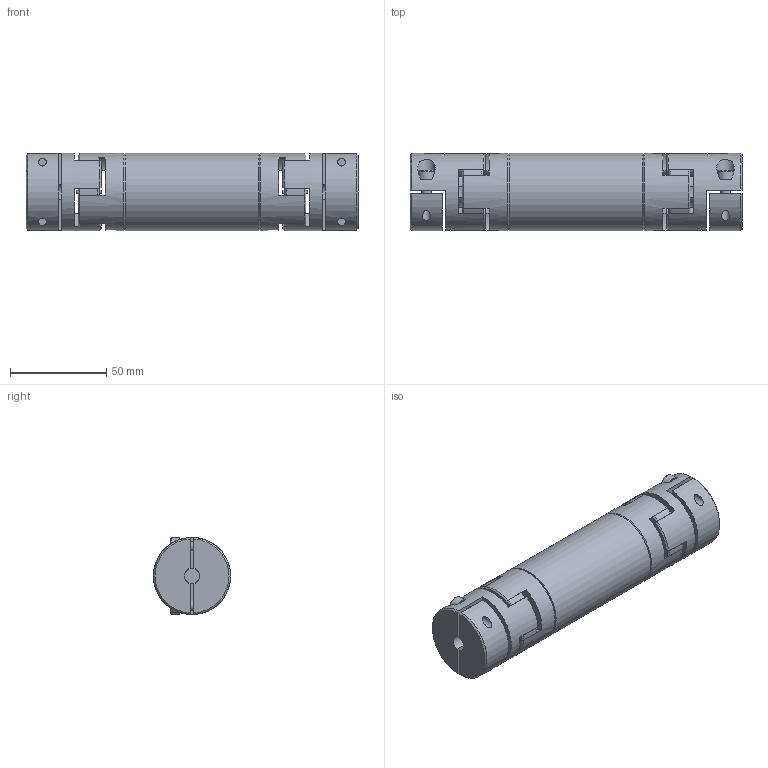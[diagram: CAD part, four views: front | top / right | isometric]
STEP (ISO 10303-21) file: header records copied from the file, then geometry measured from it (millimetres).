
FILE_DESCRIPTION(/* description */ ('Zwischenwellenkupplung AL19'),/* implementation_level */ '2;1');
FILE_NAME(/* name */ 'ALRP19-L135-8-KL-8-KL',/* time_stamp */ '2024-01-05T15:38:04+01:00',/* author */ ('License CC BY-ND 4.0'),/* organization */ ('CADENAS'),/* preprocessor_version */ 'ST-DEVELOPER v20',/* originating_system */ 'Autodesk Inventor 2024',/* authorisation */ ' ');
FILE_SCHEMA (('AUTOMOTIVE_DESIGN { 1 0 10303 214 3 1 1 }'));
Length unit declared in the file: millimetre
Products named in the file (1): Zwischenwellenkupplung AL19
Bounding box: 172.2 x 40 x 40 mm (x, y, z)
Volume: 163312.2 mm3; surface area: 61403.4 mm2
Topology: 13 solids, 13 shells, 332 faces, 780 edges, 502 vertices
Faces by surface type: cylinder 136, plane 102, cone 84, torus 10
Full cylindrical faces by diameter (mm): 1.846 x8, 4.134 x4, 5 x4, 6 x4, 8 x4, 8.5 x4, 17 x4, 30 x3, 30.2 x4, 40 x5
Entity records: 10259 total; most frequent: CARTESIAN_POINT 2380, DIRECTION 1752, ORIENTED_EDGE 1560, EDGE_CURVE 780, AXIS2_PLACEMENT_3D 754, VERTEX_POINT 502, CIRCLE 420, EDGE_LOOP 386
